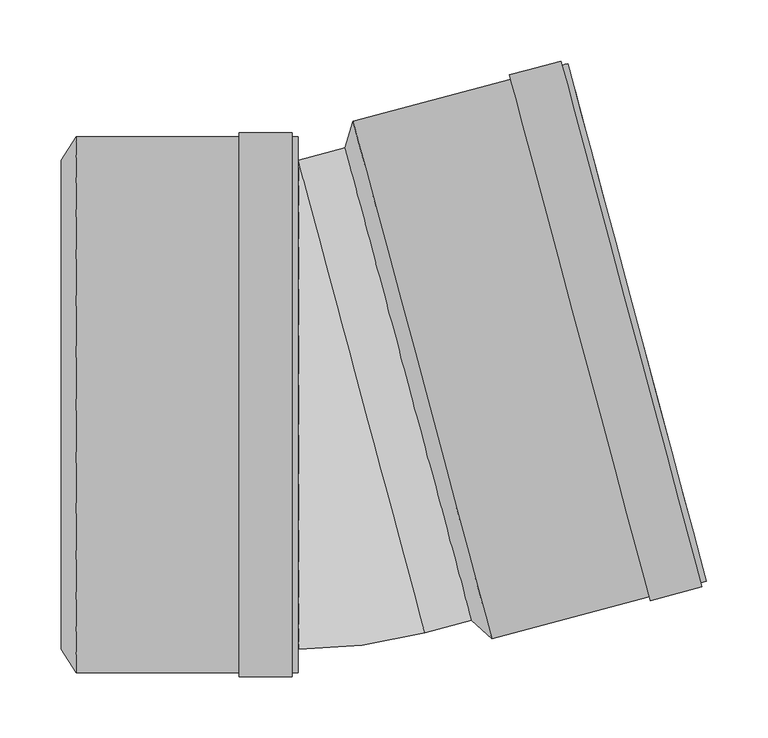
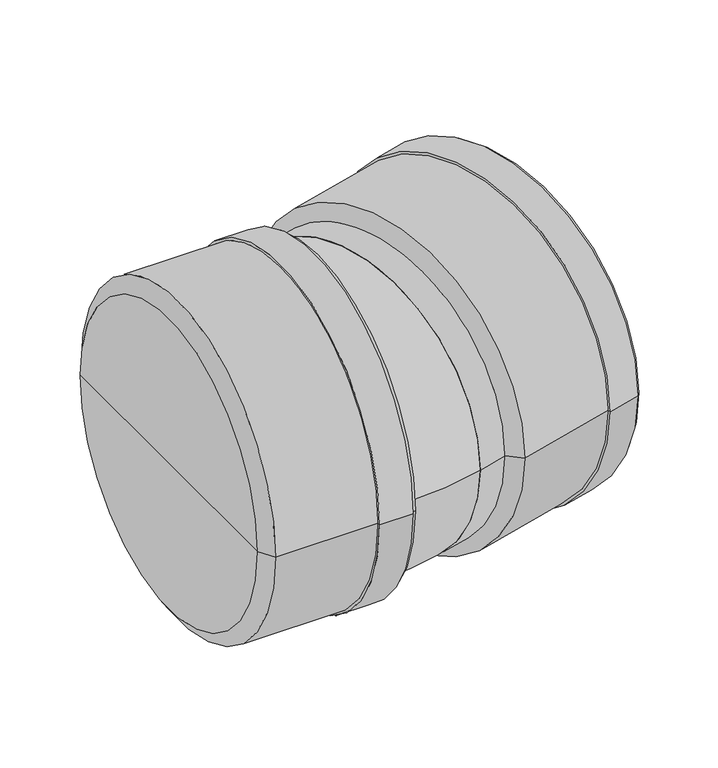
"""IFC4 building model written with IfcOpenShell, lengths in millimetres: pipe fitting geometry, pf_KGB : pf_KGB."""

from ifc_helpers import new_model, si_unit, point, frame, origin, origin_2d, place, context, project, spatial, polyline, circle_curve, ellipse_curve, trimmed, segment, composite_curve, outline, extrude, source, transform, mapped, element, save
from ifc_brep_helpers import plane_surface, cylinder_surface, revolved_surface, advanced_brep


def pipe_fitting_b08f8388(model_context):
    return source(origin(), model_context, "Body", "SolidModel", [
        advanced_brep(
        [(115.2251358, -176.180754, 0.0), (11.6975178, 210.1895765, 0.0), (18.5383691, 231.7963522, 0.0), (131.9528746, -191.4723449, 0.0), (63.4613268, 17.0044113, 0.0), (307.5581899, -144.4190425, 0.0), (194.1436843, 278.8496546, 0.0), (199.0871281, 260.4004713, 0.0), (302.6147461, -125.9698592, 0.0), (189.5072403, 277.6073231, 0.0), (302.9217459, -145.6613739, 0.0), (188.6272556, 280.8914709, 0.0), (303.8017307, -148.9455218, 0.0), (146.5128896, 269.6069606, 0.0), (261.6873646, -160.2300321, 0.0), (147.3928743, 266.3228128, 0.0), (260.8073799, -156.9458843, 0.0), (127.0094309, -173.0231616, 0.0), (23.4818128, 213.3471689, 0.0), (75.2456219, 20.1620036, 0.0)],
        [
            (0, 1, circle_curve(frame((63.4613268, 17.0044113, 0.0), z_axis=(0.9659258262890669, 0.25881904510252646, 0.0), x_axis=(-0.25881904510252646, 0.9659258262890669, 0.0)), 200.0)),
            (1, 2),
            (2, 3, circle_curve(frame((75.2456219, 20.1620036, 0.0), z_axis=(-0.9659258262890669, -0.25881904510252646, 0.0), x_axis=(-0.25881904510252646, 0.9659258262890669, 0.0)), 219.1)),
            (3, 0),
            (1, 0, circle_curve(frame((63.4613268, 17.0044113, 0.0), z_axis=(0.9659258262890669, 0.25881904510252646, 0.0), x_axis=(-0.25881904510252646, 0.9659258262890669, 0.0)), 200.0)),
            (3, 2, circle_curve(frame((75.2456219, 20.1620036, 0.0), z_axis=(-0.9659258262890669, -0.25881904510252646, 0.0), x_axis=(-0.25881904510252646, 0.9659258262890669, 0.0)), 219.1)),
            (4, 1),
            (0, 4),
            (5, 6, circle_curve(frame((250.8509371, 67.215306, 0.0), z_axis=(0.9659258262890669, 0.25881904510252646, 0.0), x_axis=(-0.25881904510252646, 0.9659258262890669, 0.0)), 219.1)),
            (6, 7),
            (7, 8, circle_curve(frame((250.8509371, 67.215306, 0.0), z_axis=(-0.9659258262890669, -0.25881904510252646, 0.0), x_axis=(-0.25881904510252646, 0.9659258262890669, 0.0)), 200.0)),
            (8, 5),
            (9, 10, circle_curve(frame((246.2144931, 65.9729746, 0.0), z_axis=(0.9659258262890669, 0.25881904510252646, 0.0), x_axis=(-0.25881904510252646, 0.9659258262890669, 0.0)), 219.1)),
            (10, 5),
            (5, 6, circle_curve(frame((250.8509371, 67.215306, 0.0), z_axis=(-0.9659258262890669, -0.25881904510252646, 0.0), x_axis=(-0.25881904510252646, 0.9659258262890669, 0.0)), 219.1)),
            (6, 9),
            (11, 12, circle_curve(frame((246.2144931, 65.9729746, 0.0), z_axis=(0.9659258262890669, 0.25881904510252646, 0.0), x_axis=(-0.25881904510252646, 0.9659258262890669, 0.0)), 222.5)),
            (12, 10),
            (9, 11),
            (13, 14, circle_curve(frame((204.1001271, 54.6884642, 0.0), z_axis=(0.9659258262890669, 0.25881904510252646, 0.0), x_axis=(-0.25881904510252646, 0.9659258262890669, 0.0)), 222.5)),
            (14, 12),
            (11, 13),
            (15, 16, circle_curve(frame((204.1001271, 54.6884642, 0.0), z_axis=(0.9659258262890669, 0.25881904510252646, 0.0), x_axis=(-0.25881904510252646, 0.9659258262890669, 0.0)), 219.1)),
            (16, 14),
            (13, 15),
            (8, 7, circle_curve(frame((250.8509371, 67.215306, 0.0), z_axis=(-0.9659258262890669, -0.25881904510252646, 0.0), x_axis=(-0.25881904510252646, 0.9659258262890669, 0.0)), 200.0)),
            (10, 9, circle_curve(frame((246.2144931, 65.9729746, 0.0), z_axis=(0.9659258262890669, 0.25881904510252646, 0.0), x_axis=(-0.25881904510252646, 0.9659258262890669, 0.0)), 219.1)),
            (12, 11, circle_curve(frame((246.2144931, 65.9729746, 0.0), z_axis=(0.9659258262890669, 0.25881904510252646, 0.0), x_axis=(-0.25881904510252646, 0.9659258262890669, 0.0)), 222.5)),
            (14, 13, circle_curve(frame((204.1001271, 54.6884642, 0.0), z_axis=(0.9659258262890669, 0.25881904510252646, 0.0), x_axis=(-0.25881904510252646, 0.9659258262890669, 0.0)), 222.5)),
            (16, 15, circle_curve(frame((204.1001271, 54.6884642, 0.0), z_axis=(0.9659258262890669, 0.25881904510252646, 0.0), x_axis=(-0.25881904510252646, 0.9659258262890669, 0.0)), 219.1)),
            (2, 15),
            (16, 3),
            (17, 18, circle_curve(frame((75.2456219, 20.1620036, 0.0), z_axis=(0.9659258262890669, 0.25881904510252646, 0.0), x_axis=(-0.25881904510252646, 0.9659258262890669, 0.0)), 200.0)),
            (18, 19),
            (19, 17),
            (18, 17, circle_curve(frame((75.2456219, 20.1620036, 0.0), z_axis=(0.9659258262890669, 0.25881904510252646, 0.0), x_axis=(-0.25881904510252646, 0.9659258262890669, 0.0)), 200.0)),
            (7, 18),
            (17, 8),
        ],
        [
            revolved_surface(polyline([(18.5383691, 231.7963522, 0.0), (11.6975178, 210.1895765, 0.0)]), (63.4613268, 17.0044113, 0.0), (-0.9659258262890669, -0.25881904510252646, 0.0)),
            plane_surface(frame((63.4613268, 17.0044113, 0.0), z_axis=(-0.9659258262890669, -0.25881904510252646, 0.0), x_axis=(-0.25881904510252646, 0.9659258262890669, 0.0))),
            plane_surface(frame((250.8509371, 67.215306, 0.0), z_axis=(0.9659258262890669, 0.25881904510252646, 0.0), x_axis=(-0.25881904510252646, 0.9659258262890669, 0.0))),
            cylinder_surface(frame((63.4613268, 17.0044113, 0.0), z_axis=(-0.9659258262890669, -0.25881904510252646, 0.0), x_axis=(-0.25881904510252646, 0.9659258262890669, 0.0)), 219.1),
            plane_surface(frame((246.2144931, 65.9729746, 0.0), z_axis=(0.9659258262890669, 0.25881904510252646, 0.0), x_axis=(-0.25881904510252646, 0.9659258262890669, 0.0))),
            cylinder_surface(frame((63.4613268, 17.0044113, 0.0), z_axis=(-0.9659258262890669, -0.25881904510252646, 0.0), x_axis=(-0.25881904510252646, 0.9659258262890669, 0.0)), 222.5),
            plane_surface(frame((204.1001271, 54.6884642, 0.0), z_axis=(-0.9659258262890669, -0.25881904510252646, 0.0), x_axis=(-0.25881904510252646, 0.9659258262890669, 0.0))),
            plane_surface(frame((75.2456219, 20.1620036, 0.0), z_axis=(0.9659258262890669, 0.25881904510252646, 0.0), x_axis=(-0.25881904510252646, 0.9659258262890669, 0.0))),
            revolved_surface(polyline([(23.481812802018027, 213.3471688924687, 0.0), (199.08712809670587, 260.4004713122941, 0.0)]), (63.4613268, 17.0044113, 0.0), (-0.9659258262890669, -0.25881904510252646, 0.0)),
        ],
        [
            (0, [[1, 2, 3, 4]]),
            (0, [[5, -4, 6, -2]]),
            (1, [[7, -1, 8]]),
            (1, [[-8, -5, -7]]),
            (2, [[9, 10, 11, 12]]),
            (3, [[13, 14, 15, 16]]),
            (4, [[17, 18, -13, 19]]),
            (5, [[20, 21, -17, 22]]),
            (6, [[23, 24, -20, 25]]),
            (2, [[-15, -12, 26, -10]]),
            (3, [[27, -16, -9, -14]]),
            (4, [[28, -19, -27, -18]]),
            (5, [[29, -22, -28, -21]]),
            (6, [[30, -25, -29, -24]]),
            (3, [[-3, 31, -30, 32]]),
            (3, [[-6, -32, -23, -31]]),
            (7, [[33, 34, 35]]),
            (7, [[36, -35, -34]]),
            (8, [[-11, 37, -33, 38]]),
            (8, [[-26, -38, -36, -37]]),
        ],
    ),
        advanced_brep(
        [(-220.5, -200.0, 0.0), (-220.5, 200.0, 0.0), (-208.3, 219.1, 0.0), (-208.3, -219.1, 0.0), (-220.5, 0.0, 0.0), (-26.5, -219.1, 0.0), (-26.5, 219.1, 0.0), (-26.5, 200.0, 0.0), (-26.5, -200.0, 0.0), (-31.3, 219.1, 0.0), (-31.3, -219.1, 0.0), (-31.3, 222.5, 0.0), (-31.3, -222.5, 0.0), (-74.9, 222.5, 0.0), (-74.9, -222.5, 0.0), (-74.9, 219.1, 0.0), (-74.9, -219.1, 0.0), (-208.3, -200.0, 0.0), (-208.3, 200.0, 0.0), (-208.3, 0.0, 0.0)],
        [
            (0, 1, circle_curve(frame((-220.5, 0.0, 0.0), z_axis=(1.0, 0.0, 0.0), x_axis=(0.0, 1.0, 0.0)), 200.0)),
            (1, 2),
            (2, 3, circle_curve(frame((-208.3, 0.0, 0.0), z_axis=(-1.0, 0.0, 0.0), x_axis=(0.0, 1.0, 0.0)), 219.1)),
            (3, 0),
            (1, 0, circle_curve(frame((-220.5, 0.0, 0.0), z_axis=(1.0, 0.0, 0.0), x_axis=(0.0, 1.0, 0.0)), 200.0)),
            (3, 2, circle_curve(frame((-208.3, 0.0, 0.0), z_axis=(-1.0, 0.0, 0.0), x_axis=(0.0, 1.0, 0.0)), 219.1)),
            (4, 1),
            (0, 4),
            (5, 6, circle_curve(frame((-26.5, 0.0, 0.0), z_axis=(1.0, 0.0, 0.0), x_axis=(0.0, 1.0, 0.0)), 219.1)),
            (6, 7),
            (7, 8, circle_curve(frame((-26.5, 0.0, 0.0), z_axis=(-1.0, 0.0, 0.0), x_axis=(0.0, 1.0, 0.0)), 200.0)),
            (8, 5),
            (9, 10, circle_curve(frame((-31.3, 0.0, 0.0), z_axis=(1.0, 0.0, 0.0), x_axis=(0.0, 1.0, 0.0)), 219.1)),
            (10, 5),
            (5, 6, circle_curve(frame((-26.5, 0.0, 0.0), z_axis=(-1.0, 0.0, 0.0), x_axis=(0.0, 1.0, 0.0)), 219.1)),
            (6, 9),
            (11, 12, circle_curve(frame((-31.3, 0.0, 0.0), z_axis=(1.0, 0.0, 0.0), x_axis=(0.0, 1.0, 0.0)), 222.5)),
            (12, 10),
            (9, 11),
            (13, 14, circle_curve(frame((-74.9, 0.0, 0.0), z_axis=(1.0, 0.0, 0.0), x_axis=(0.0, 1.0, 0.0)), 222.5)),
            (14, 12),
            (11, 13),
            (15, 16, circle_curve(frame((-74.9, 0.0, 0.0), z_axis=(1.0, 0.0, 0.0), x_axis=(0.0, 1.0, 0.0)), 219.1)),
            (16, 14),
            (13, 15),
            (8, 7, circle_curve(frame((-26.5, 0.0, 0.0), z_axis=(-1.0, 0.0, 0.0), x_axis=(0.0, 1.0, 0.0)), 200.0)),
            (10, 9, circle_curve(frame((-31.3, 0.0, 0.0), z_axis=(1.0, 0.0, 0.0), x_axis=(0.0, 1.0, 0.0)), 219.1)),
            (12, 11, circle_curve(frame((-31.3, 0.0, 0.0), z_axis=(1.0, 0.0, 0.0), x_axis=(0.0, 1.0, 0.0)), 222.5)),
            (14, 13, circle_curve(frame((-74.9, 0.0, 0.0), z_axis=(1.0, 0.0, 0.0), x_axis=(0.0, 1.0, 0.0)), 222.5)),
            (16, 15, circle_curve(frame((-74.9, 0.0, 0.0), z_axis=(1.0, 0.0, 0.0), x_axis=(0.0, 1.0, 0.0)), 219.1)),
            (2, 15),
            (16, 3),
            (17, 18, circle_curve(frame((-208.3, 0.0, 0.0), z_axis=(1.0, 0.0, 0.0), x_axis=(0.0, 1.0, 0.0)), 200.0)),
            (18, 19),
            (19, 17),
            (18, 17, circle_curve(frame((-208.3, 0.0, 0.0), z_axis=(1.0, 0.0, 0.0), x_axis=(0.0, 1.0, 0.0)), 200.0)),
            (7, 18),
            (17, 8),
        ],
        [
            revolved_surface(polyline([(-208.3, 219.1, 0.0), (-220.5, 200.0, 0.0)]), (-220.5, 0.0, 0.0), (-1.0, 0.0, 0.0)),
            plane_surface(frame((-220.5, 0.0, 0.0), z_axis=(-1.0, 0.0, 0.0), x_axis=(0.0, 1.0, 0.0))),
            plane_surface(frame((-26.5, 0.0, 0.0), z_axis=(1.0, 0.0, 0.0), x_axis=(0.0, 1.0, 0.0))),
            cylinder_surface(frame((-220.5, 0.0, 0.0), z_axis=(-1.0, 0.0, 0.0), x_axis=(0.0, 1.0, 0.0)), 219.1),
            plane_surface(frame((-31.3, 0.0, 0.0), z_axis=(1.0, 0.0, 0.0), x_axis=(0.0, 1.0, 0.0))),
            cylinder_surface(frame((-220.5, 0.0, 0.0), z_axis=(-1.0, 0.0, 0.0), x_axis=(0.0, 1.0, 0.0)), 222.5),
            plane_surface(frame((-74.9, 0.0, 0.0), z_axis=(-1.0, 0.0, 0.0), x_axis=(0.0, 1.0, 0.0))),
            plane_surface(frame((-208.3, 0.0, 0.0), z_axis=(1.0, 0.0, 0.0), x_axis=(0.0, 1.0, 0.0))),
            revolved_surface(polyline([(-208.3, 200.0, 0.0), (-26.5, 200.0, 0.0)]), (-220.5, 0.0, 0.0), (-1.0, 0.0, 0.0)),
        ],
        [
            (0, [[1, 2, 3, 4]]),
            (0, [[5, -4, 6, -2]]),
            (1, [[7, -1, 8]]),
            (1, [[-8, -5, -7]]),
            (2, [[9, 10, 11, 12]]),
            (3, [[13, 14, 15, 16]]),
            (4, [[17, 18, -13, 19]]),
            (5, [[20, 21, -17, 22]]),
            (6, [[23, 24, -20, 25]]),
            (2, [[-15, -12, 26, -10]]),
            (3, [[27, -16, -9, -14]]),
            (4, [[28, -19, -27, -18]]),
            (5, [[29, -22, -28, -21]]),
            (6, [[30, -25, -29, -24]]),
            (3, [[-3, 31, -30, 32]]),
            (3, [[-6, -32, -23, -31]]),
            (7, [[33, 34, 35]]),
            (7, [[36, -35, -34]]),
            (8, [[-11, 37, -33, 38]]),
            (8, [[-26, -38, -36, -37]]),
        ],
    ),
        extrude(outline(composite_curve([segment(trimmed(circle_curve(origin_2d(), 200.0), [point((0.0, -200.0))], [point((0.0, 199.9999999))], False, "CARTESIAN"), True, "CONTINUOUS"), segment(trimmed(circle_curve(origin_2d(), 200.0), [point((0.0, 199.9999999))], [point((0.0, -200.0))], False, "CARTESIAN"), True, "CONTINUOUS")], self_intersect=False)), frame((25.4333095, 6.8148347, 0.0), z_axis=(0.9659258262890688, 0.258819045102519, 0.0), x_axis=(0.0, 0.0, 1.0)), (0.0, 0.0, 1.0), 39.3695005),
        extrude(outline(composite_curve([segment(trimmed(circle_curve(origin_2d(), 200.0), [point((-200.0, 0.0))], [point((200.0, 0.0))], False, "CARTESIAN"), True, "CONTINUOUS"), segment(trimmed(circle_curve(origin_2d(), 200.0), [point((200.0, 0.0))], [point((-200.0, 0.0))], False, "CARTESIAN"), True, "CONTINUOUS")], self_intersect=False)), frame((-208.3, 0.0, 0.0), z_axis=(1.0, 0.0, 0.0), x_axis=(0.0, 1.0, 0.0)), (0.0, 0.0, 1.0), 181.9695005),
        advanced_brep(
        [(-26.3304995, -200.0, 0.0), (-26.3304995, 200.0, 0.0), (77.1971185, -186.3703305, 0.0)],
        [
            (0, 1, circle_curve(frame((-26.3304995, 0.0, 0.0), z_axis=(-1.0, 0.0, 0.0), x_axis=(0.0, 1.0, 0.0)), 200.0)),
            (1, 0, circle_curve(frame((-26.3304995, 0.0, 0.0), z_axis=(-1.0, 0.0, 0.0), x_axis=(0.0, 1.0, 0.0)), 200.0)),
            (2, 1, circle_curve(frame((25.4333095, 6.8148347, 0.0), z_axis=(0.9659258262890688, 0.25881904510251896, 0.0), x_axis=(-0.25881904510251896, 0.9659258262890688, 0.0)), 200.0)),
            (1, 2, circle_curve(frame((25.4333095, 6.8148347, 0.0), z_axis=(0.9659258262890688, 0.25881904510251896, 0.0), x_axis=(-0.25881904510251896, 0.9659258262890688, 0.0)), 200.0)),
            (2, 0, circle_curve(frame((-26.3304995, 200.0, 0.0), z_axis=(0.0, 0.0, -1.0), x_axis=(0.0, -1.0, 0.0)), 400.0)),
        ],
        [
            plane_surface(frame((-26.3304995, 200.0, -14.8), z_axis=(-1.0, 0.0, 0.0), x_axis=(0.0, -1.0, 0.0))),
            plane_surface(frame((-26.3304995, 200.0, -14.8), z_axis=(0.9659258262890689, 0.258819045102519, 0.0), x_axis=(0.258819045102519, -0.9659258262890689, 0.0))),
            revolved_surface(trimmed(ellipse_curve(frame((-26.3304995, 0.0, 0.0), z_axis=(1.0, 0.0, 0.0), x_axis=(0.0, 1.0, 0.0)), 200.0, 200.0), [point((-26.3304995, -200.0, 0.0))], [point((-26.3304995, 200.0, 0.0))], True, "CARTESIAN"), (-26.3304995, 200.0, -14.8), (0.0, 0.0, -1.0)),
            revolved_surface(trimmed(ellipse_curve(frame((-26.3304995, 0.0, 0.0), z_axis=(1.0, 0.0, 0.0), x_axis=(0.0, 1.0, 0.0)), 200.0, 200.0), [point((-26.3304995, 200.0, 0.0))], [point((-26.3304995, -200.0, 0.0))], True, "CARTESIAN"), (-26.3304995, 200.0, -14.8), (0.0, 0.0, -1.0)),
        ],
        [
            (0, [[1, 2]]),
            (1, [[3, 4]]),
            (2, [[5, -2, -3]]),
            (3, [[-1, -5, -4]]),
        ],
    ),
    ])


if __name__ == "__main__":
    model = new_model("IFC4")
    model_context = context("Model", 3, world=origin())
    ifc_project = project(units=[si_unit("LENGTHUNIT", "METRE", prefix="MILLI")], contexts=[model_context])
    site = spatial("IfcSite", under=ifc_project)
    building = spatial("IfcBuilding", under=site)
    placement = place(None, origin())
    pipe_fitting_shape = pipe_fitting_b08f8388(model_context)
    element("IfcPipeFitting", 1, ObjectType="pf_KGB : pf_KGB", at=placement, inside=building, context=model_context, shape_type="MappedRepresentation", body=[
        mapped(pipe_fitting_shape, transform((0.0, 0.0, 0.0), x_axis=(1.0, 0.0, 0.0), y_axis=(0.0, 1.0, 0.0), z_axis=(0.0, 0.0, 1.0))),
    ])
    save(model, "model.ifc")
